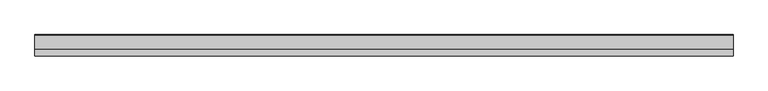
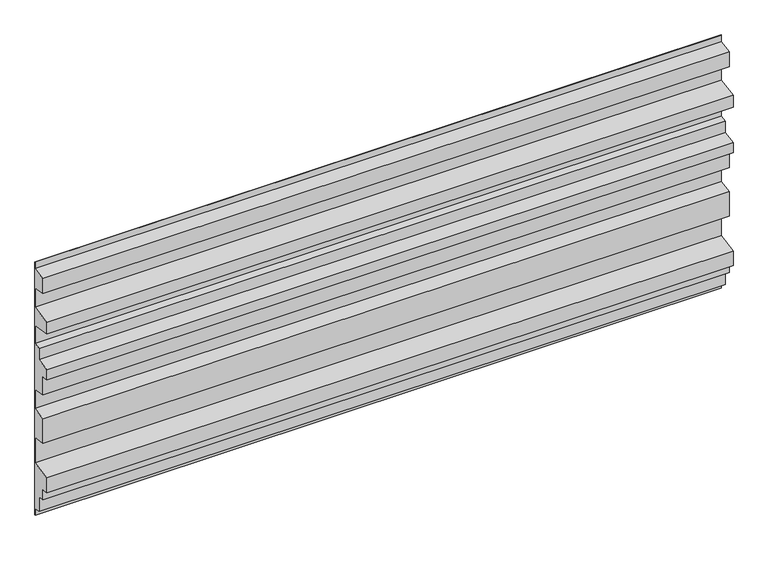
"""IFC4 building model written with IfcOpenShell, lengths in millimetres: plate geometry, ATELIERS 3S_NEW YORK MANHATTAN 780_HORIZONTAL : AZURO."""

from ifc_helpers import new_model, si_unit, frame, origin, place, context, project, spatial, polyline, outline, extrude, source, transform, mapped, element, save


def plate_259e7d41(model_context):
    return source(origin(), model_context, "Body", "SweptSolid", [
        extrude(outline(polyline([(-40.75, 752.9516131), (-0.8, 759.995876), (-0.8, 780.0), (0.0, 780.0), (0.0, 0.0), (-0.8, 0.0), (-0.8, 19.6941775), (-20.7501589, 23.211221), (-20.7501589, 68.2118488), (-40.7500015, 71.7384174), (-40.7500015, 101.7384166), (-60.7500001, 105.2649565), (-60.7500001, 150.8942812), (-0.75, 161.4739), (-0.75, 238.8445753), (-40.75, 245.8976546), (-40.75, 321.5269793), (-0.75, 328.5800585), (-0.75, 387.9507338), (-40.75, 395.003813), (-40.75, 450.003813), (-60.75, 453.5303526), (-60.75, 484.1596773), (-20.75, 491.2127566), (-20.75, 526.2127566), (-0.75, 529.7392962), (-0.75, 584.1099715), (-60.75, 594.6895903), (-60.75, 630.318915), (-0.75, 640.8985339), (-0.75, 700.2692092), (-40.75, 707.3222884), (-40.75, 752.9516131)])), frame((-999.362758, 0.0, 0.0), z_axis=(1.0, 0.0, 0.0), x_axis=(0.0, 1.0, 0.0)), (0.0, 0.0, 1.0), 1998.7255161),
    ])


if __name__ == "__main__":
    model = new_model("IFC4")
    model_context = context("Model", 3, world=origin())
    ifc_project = project(units=[si_unit("LENGTHUNIT", "METRE", prefix="MILLI")], contexts=[model_context])
    site = spatial("IfcSite", under=ifc_project)
    building = spatial("IfcBuilding", under=site)
    placement = place(None, origin())
    plate_shape = plate_259e7d41(model_context)
    element("IfcPlate", 1, ObjectType="ATELIERS 3S_NEW YORK MANHATTAN 780_HORIZONTAL : AZURO", at=placement, inside=building, context=model_context, shape_type="MappedRepresentation", body=[
        mapped(plate_shape, transform((0.0, 0.0, 0.0), x_axis=(1.0, 0.0, 0.0), y_axis=(0.0, 1.0, 0.0), z_axis=(0.0, 0.0, 1.0))),
    ])
    save(model, "model.ifc")
